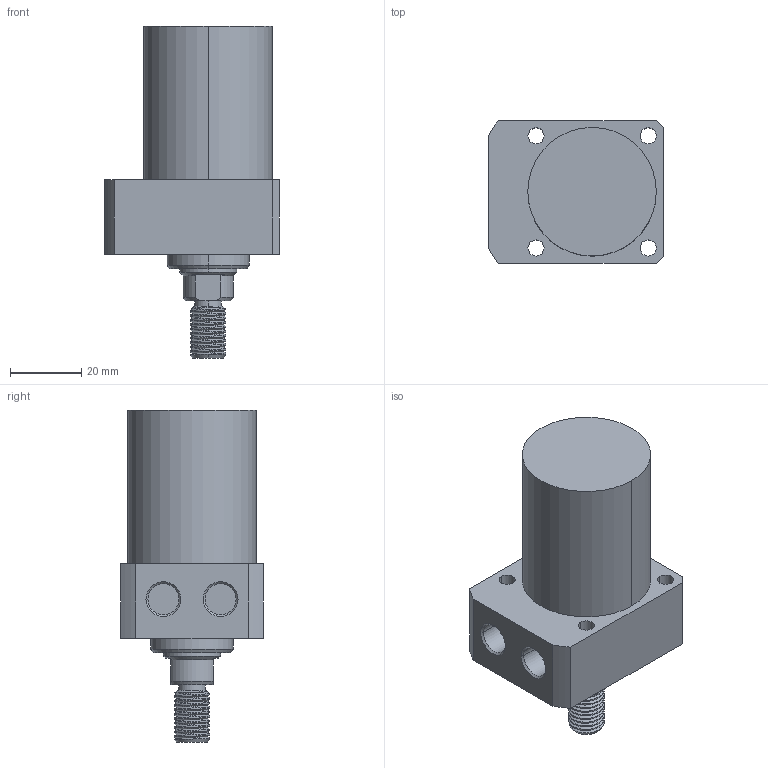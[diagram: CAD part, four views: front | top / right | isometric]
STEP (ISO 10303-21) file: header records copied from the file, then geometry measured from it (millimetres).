
FILE_DESCRIPTION((' '),'2;1');
FILE_NAME( 'TLLR-036CT-035.STEP.stp', '2025-10-24T16:35:47', (' '), ('--- Datakit www.datakit.com---'), ' Datakit CrossCadWare V2024.1 Dec 21 2023', 'Mastercam 2025', ' ');
FILE_SCHEMA(('AUTOMOTIVE_DESIGN { 1 0 10303 214 1 1 1 1 }'));
Length unit declared in the file: millimetre
Products named in the file (1): TLLR-036CT-035
Bounding box: 49 x 40 x 93 mm (x, y, z)
Volume: 85788.8 mm3; surface area: 15524.8 mm2
Topology: 1 solids, 1 shells, 87 faces, 290 edges, 213 vertices
Faces by surface type: cylinder 50, plane 21, cone 14, bspline 2
Entity records: 7359 total; most frequent: CARTESIAN_POINT 4740, ORIENTED_EDGE 580, DIRECTION 464, EDGE_CURVE 290, VERTEX_POINT 213, AXIS2_PLACEMENT_3D 187, EDGE_LOOP 103, CIRCLE 101
